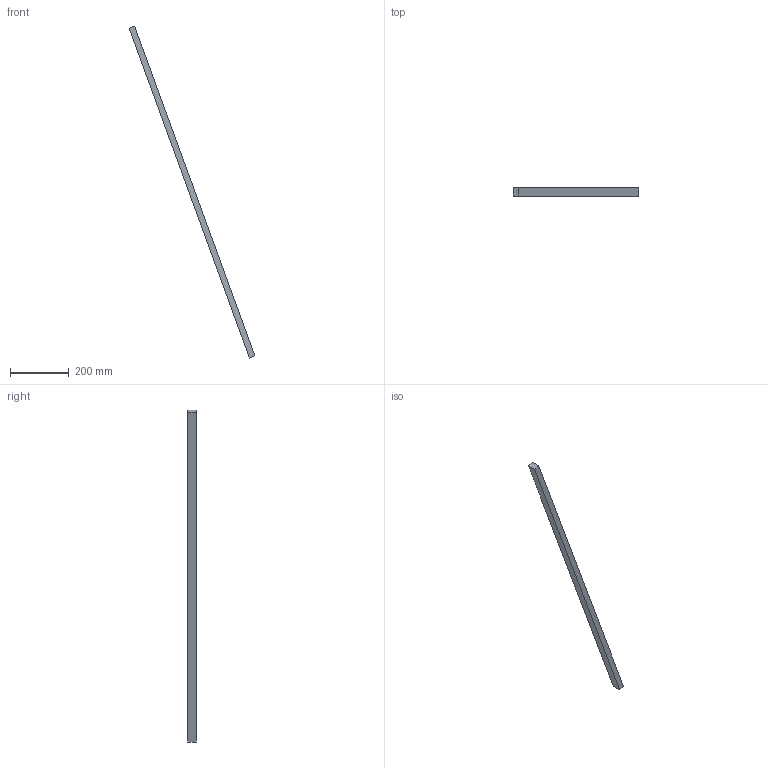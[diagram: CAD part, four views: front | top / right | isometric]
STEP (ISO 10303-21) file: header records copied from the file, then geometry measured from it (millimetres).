
FILE_DESCRIPTION(('FreeCAD Model'),'2;1');
FILE_NAME('Open CASCADE Shape Model','2026-09-10T17:25:49',('FreeCAD'),( 'FreeCAD'),'Open CASCADE STEP processor 7.8','FreeCAD','Unknown');
FILE_SCHEMA(('AUTOMOTIVE_DESIGN { 1 0 10303 214 1 1 1 1 }'));
Length unit declared in the file: millimetre
Products named in the file (1): Open CASCADE STEP translator 7.8 3
Bounding box: 429.22 x 30 x 1134.47 mm (x, y, z)
Volume: 720000 mm3; surface area: 121200 mm2
Topology: 1 solids, 1 shells, 6 faces, 12 edges, 8 vertices
Faces by surface type: plane 6
Entity records: 166 total; most frequent: CARTESIAN_POINT 27, DIRECTION 26, ORIENTED_EDGE 24, EDGE_CURVE 12, LINE 12, VECTOR 12, VERTEX_POINT 8, AXIS2_PLACEMENT_3D 7
